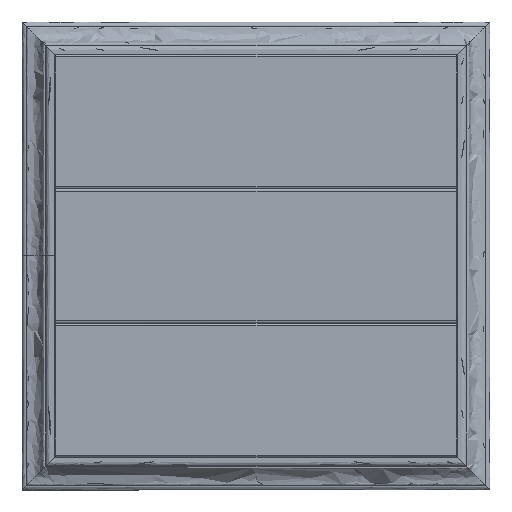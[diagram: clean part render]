
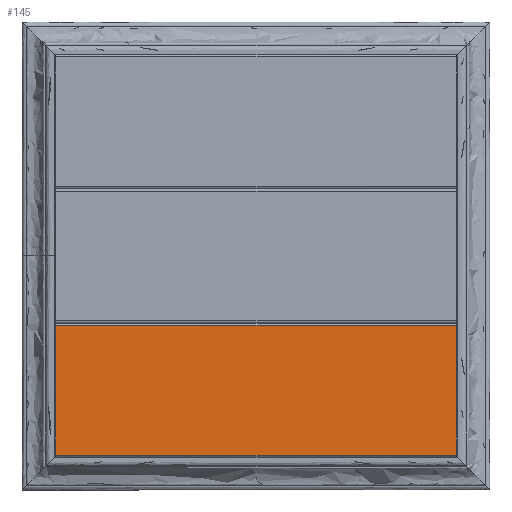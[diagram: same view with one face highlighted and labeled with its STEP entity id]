
A CAD part, top view. The second image highlights one B-rep face of the part: STEP entity #145.
In plain terms, the highlighted planar face has unit normal (0, 0, 1).
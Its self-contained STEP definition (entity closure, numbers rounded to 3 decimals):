
#16=PLANE('',#2993);
#145=ADVANCED_FACE('',(#352),#16,.T.);
#352=FACE_OUTER_BOUND('',#559,.T.);
#559=EDGE_LOOP('',(#809,#810,#811,#812));
#809=ORIENTED_EDGE('',*,*,#1685,.T.);
#810=ORIENTED_EDGE('',*,*,#1687,.T.);
#811=ORIENTED_EDGE('',*,*,#1688,.T.);
#812=ORIENTED_EDGE('',*,*,#1686,.T.);
#1685=EDGE_CURVE('',#2581,#2582,#2124,.T.);
#1686=EDGE_CURVE('',#2583,#2581,#2125,.T.);
#1687=EDGE_CURVE('',#2582,#2584,#2126,.T.);
#1688=EDGE_CURVE('',#2584,#2583,#2127,.T.);
#2124=B_SPLINE_CURVE_WITH_KNOTS('',1,(#3662,#3663),.UNSPECIFIED.,.F.,.F.,
(2,2),(2.,938.),.UNSPECIFIED.);
#2125=B_SPLINE_CURVE_WITH_KNOTS('',1,(#3664,#3665),.UNSPECIFIED.,.F.,.F.,
(2,2),(2.,120.5),.UNSPECIFIED.);
#2126=B_SPLINE_CURVE_WITH_KNOTS('',1,(#3666,#3667),.UNSPECIFIED.,.F.,.F.,
(2,2),(2.,120.5),.UNSPECIFIED.);
#2127=B_SPLINE_CURVE_WITH_KNOTS('',1,(#3668,#3669),.UNSPECIFIED.,.F.,.F.,
(2,2),(2.,938.),.UNSPECIFIED.);
#2581=VERTEX_POINT('',#3626);
#2582=VERTEX_POINT('',#3627);
#2583=VERTEX_POINT('',#3628);
#2584=VERTEX_POINT('',#3629);
#2993=AXIS2_PLACEMENT_3D('',#3501,#3064,$);
#3064=DIRECTION('',(0.,0.,1.));
#3501=CARTESIAN_POINT('',(30.,30.,450.));
#3626=CARTESIAN_POINT('',(399.213,151.287,450.));
#3627=CARTESIAN_POINT('',(30.787,151.287,450.));
#3628=CARTESIAN_POINT('',(399.213,32.013,450.));
#3629=CARTESIAN_POINT('',(30.787,32.013,450.));
#3662=CARTESIAN_POINT('',(399.213,151.287,450.));
#3663=CARTESIAN_POINT('',(30.787,151.287,450.));
#3664=CARTESIAN_POINT('',(399.213,32.013,450.));
#3665=CARTESIAN_POINT('',(399.213,151.287,450.));
#3666=CARTESIAN_POINT('',(30.787,151.287,450.));
#3667=CARTESIAN_POINT('',(30.787,32.013,450.));
#3668=CARTESIAN_POINT('',(30.787,32.013,450.));
#3669=CARTESIAN_POINT('',(399.213,32.013,450.));
